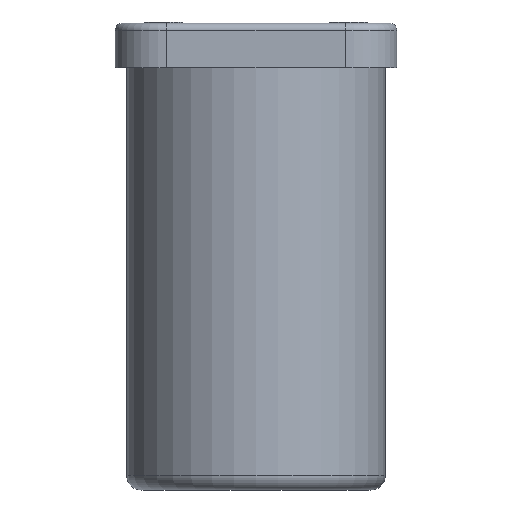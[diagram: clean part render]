
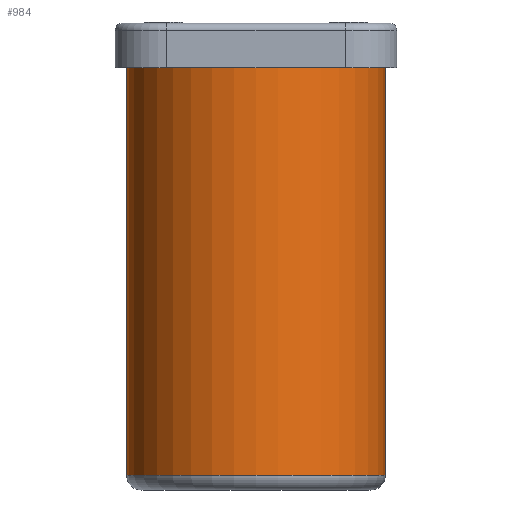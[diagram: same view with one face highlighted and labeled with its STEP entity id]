
A CAD part, front view. The second image highlights one B-rep face of the part: STEP entity #984.
In plain terms, the highlighted cylindrical face has radius 1.75 mm (diameter 3.5 mm), a full revolution.
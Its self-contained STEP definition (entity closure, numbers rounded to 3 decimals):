
#42=CYLINDRICAL_SURFACE('',#1123,1.75);
#120=LINE('',#1737,#191);
#191=VECTOR('',#1444,1.75);
#279=FACE_OUTER_BOUND('',#348,.T.);
#348=EDGE_LOOP('',(#901,#902,#903,#904,#905));
#414=CIRCLE('',#1121,1.75);
#415=CIRCLE('',#1122,1.75);
#416=CIRCLE('',#1124,1.75);
#499=VERTEX_POINT('',#1730);
#500=VERTEX_POINT('',#1732);
#501=VERTEX_POINT('',#1736);
#634=EDGE_CURVE('',#499,#500,#414,.T.);
#635=EDGE_CURVE('',#500,#499,#415,.T.);
#636=EDGE_CURVE('',#500,#501,#120,.T.);
#637=EDGE_CURVE('',#501,#501,#416,.T.);
#901=ORIENTED_EDGE('',*,*,#635,.F.);
#902=ORIENTED_EDGE('',*,*,#636,.T.);
#903=ORIENTED_EDGE('',*,*,#637,.F.);
#904=ORIENTED_EDGE('',*,*,#636,.F.);
#905=ORIENTED_EDGE('',*,*,#634,.F.);
#984=ADVANCED_FACE('',(#279),#42,.T.);
#1121=AXIS2_PLACEMENT_3D('',#1733,#1438,#1439);
#1122=AXIS2_PLACEMENT_3D('',#1734,#1440,#1441);
#1123=AXIS2_PLACEMENT_3D('',#1735,#1442,#1443);
#1124=AXIS2_PLACEMENT_3D('',#1738,#1445,#1446);
#1438=DIRECTION('center_axis',(0.,0.,-1.));
#1439=DIRECTION('ref_axis',(0.,-1.,0.));
#1440=DIRECTION('center_axis',(0.,0.,-1.));
#1441=DIRECTION('ref_axis',(0.,-1.,0.));
#1442=DIRECTION('center_axis',(0.,0.,-1.));
#1443=DIRECTION('ref_axis',(0.,1.,0.));
#1444=DIRECTION('',(0.,0.,1.));
#1445=DIRECTION('center_axis',(0.,0.,1.));
#1446=DIRECTION('ref_axis',(0.,1.,0.));
#1730=CARTESIAN_POINT('',(1.75,0.,-5.71));
#1732=CARTESIAN_POINT('',(0.,-1.75,-5.71));
#1733=CARTESIAN_POINT('Origin',(0.,0.,-5.71));
#1734=CARTESIAN_POINT('Origin',(0.,0.,-5.71));
#1735=CARTESIAN_POINT('Origin',(0.,0.,-2.91));
#1736=CARTESIAN_POINT('',(0.,-1.75,0.09));
#1737=CARTESIAN_POINT('',(0.,-1.75,-2.91));
#1738=CARTESIAN_POINT('Origin',(0.,0.,0.09));
